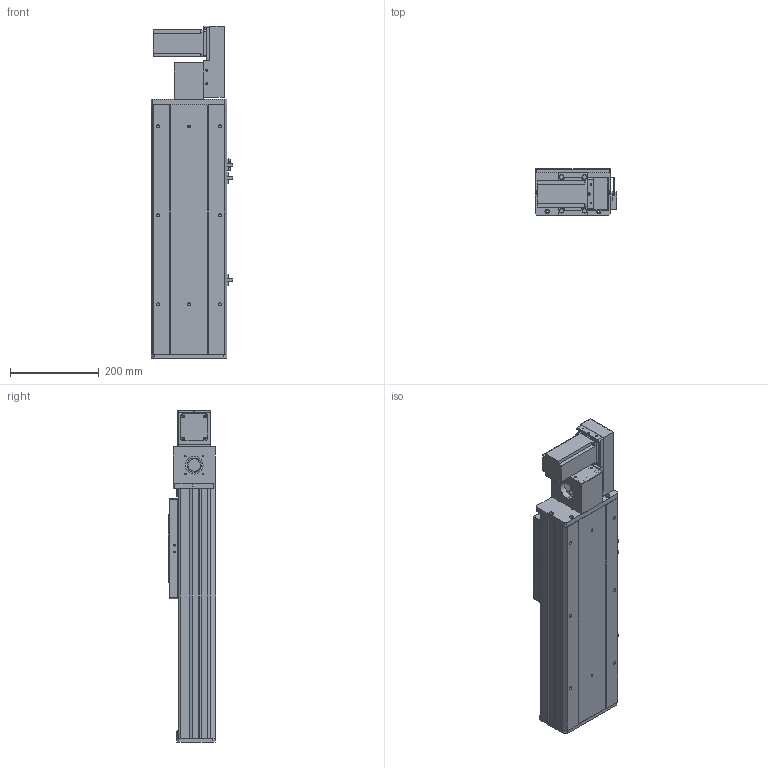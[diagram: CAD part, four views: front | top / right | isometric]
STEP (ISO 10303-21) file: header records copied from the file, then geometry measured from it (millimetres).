
FILE_DESCRIPTION (( 'STEP AP203' ), '1' );
FILE_NAME ('Y170CB-D105-S250-BR-P400W.STEP', '2020-02-19T08:38:39', ( '微软用户' ), ( '微软中国' ), 'SwSTEP 2.0', 'SolidWorks 2017', '' );
FILE_SCHEMA (( 'CONFIG_CONTROL_DESIGN' ));
Length unit declared in the file: millimetre
Products named in the file (17): --70CB --喘謫眊楊擘啣-; 70B喘謫眊----; 70C-雄赽釱-奻-; san松下电机400不带刹车----; Y170CB-D105-S250-BR-P400W; 70CB-掛极-; Y70俋欶BR----; 0B-萇儂楊擘啣; 70CB-耜裔啣-; 17B-耜蚾蟀諉啣----; 70C--詩湍揤踡え-; 0C--雄赽釱俋欶-170; 70CB-詩湍--; 70CB--耜裔; B-源倛裔啣; Y100-135俋离換覜ん--; Y170CB-陔俋离換覜結え---
Assembly tree (20 placements, depth 2):
  Y170CB-D105-S250-BR-P400W
    70B喘謫眊----
    B-源倛裔啣
    17B-耜蚾蟀諉啣----
    0B-萇儂楊擘啣
    san松下电机400不带刹车----
    Y70俋欶BR----
    70CB-掛极-
    --70CB --喘謫眊楊擘啣-
    70CB-耜裔啣-  x2
    70C--詩湍揤踡え-  x2
    70CB--耜裔
    70C-雄赽釱-奻-
    0C--雄赽釱俋欶-170
    70CB-詩湍--
    Y100-135俋离換覜ん--  x3
    Y170CB-陔俋离換覜結え---
Bounding box: 183.5 x 107 x 747 mm (x, y, z)
Volume: 3579718.6 mm3; surface area: 1258358.1 mm2
Topology: 20 solids, 20 shells, 961 faces, 2561 edges, 1698 vertices
Faces by surface type: cylinder 475, plane 462, cone 24
Entity records: 30291 total; most frequent: CARTESIAN_POINT 5541, DIRECTION 4924, ORIENTED_EDGE 4604, EDGE_CURVE 2302, AXIS2_PLACEMENT_3D 1785, VERTEX_POINT 1528, VECTOR 1354, LINE 1354
